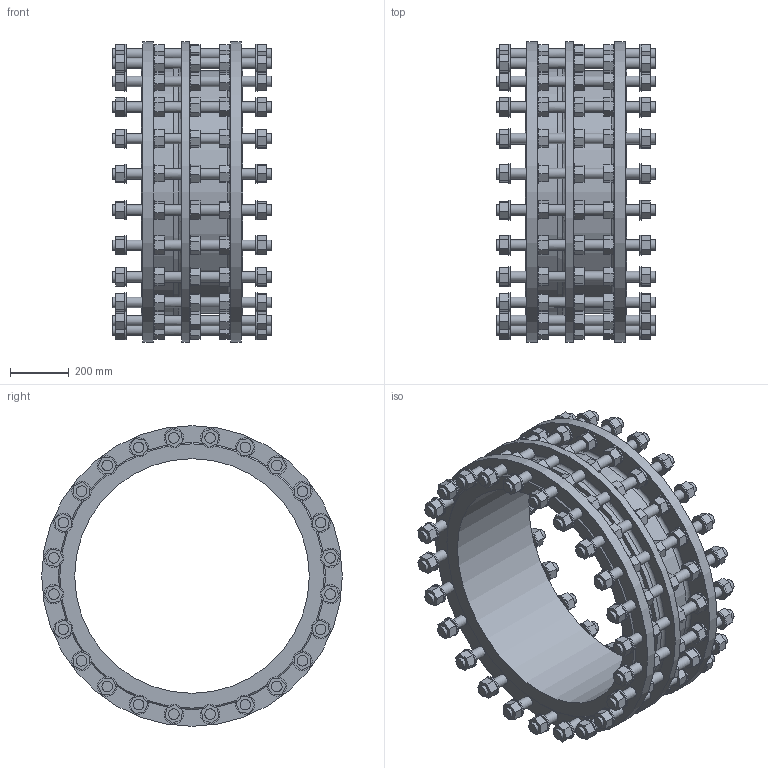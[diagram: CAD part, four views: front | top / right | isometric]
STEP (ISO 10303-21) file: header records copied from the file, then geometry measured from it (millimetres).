
FILE_DESCRIPTION (( 'STEP AP203' ), '1' );
FILE_NAME ('O_265_910_DN800_1XXXXX00_L=345_REV01.step', '2024-10-11T10:52:39', ( '' ), ( '' ), 'SwSTEP 2.0', 'SolidWorks 2022', '' );
FILE_SCHEMA (( 'CONFIG_CONTROL_DESIGN' ));
Length unit declared in the file: millimetre
Products named in the file (1): O_265_910_DN800_1XXXXX00_L=345_REV01
Bounding box: 545 x 1025 x 1025 mm (x, y, z)
Volume: 66890261.2 mm3; surface area: 5172083 mm2
Topology: 1 solids, 1 shells, 1381 faces, 3310 edges, 2254 vertices
Faces by surface type: plane 1104, cylinder 272, cone 3, torus 2
Full cylindrical faces by diameter (mm): 36 x144, 66 x120, 800 x1, 828 x1, 870 x1, 1025 x3
Entity records: 38524 total; most frequent: CARTESIAN_POINT 7573, DIRECTION 6181, ORIENTED_EDGE 5732, EDGE_CURVE 2866, LINE 2267, VECTOR 2267, VERTEX_POINT 2085, EDGE_LOOP 2077
